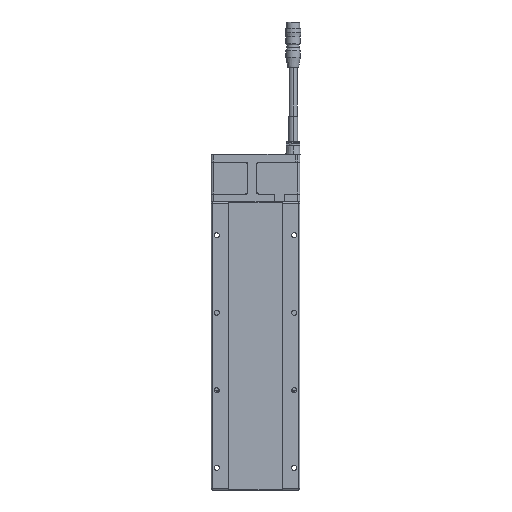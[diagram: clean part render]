
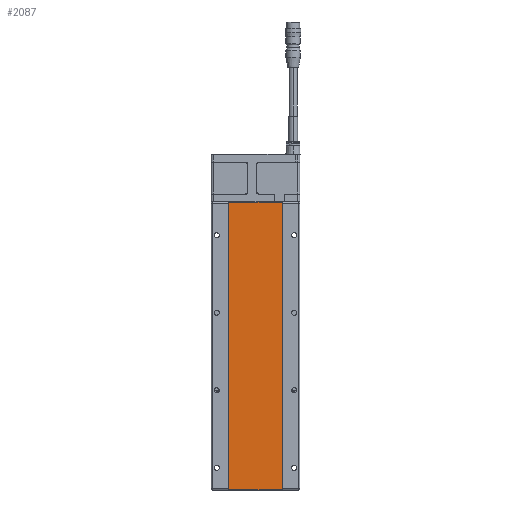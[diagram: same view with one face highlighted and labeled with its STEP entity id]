
A CAD part, front view. The second image highlights one B-rep face of the part: STEP entity #2087.
In plain terms, the highlighted planar face has unit normal (0, -1, 0).
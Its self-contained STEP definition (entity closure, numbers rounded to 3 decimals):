
#2087 = ADVANCED_FACE ( 'NONE', ( #29432 ), #35869, .F. ) ;
#3014 = DIRECTION ( 'NONE',  ( 0., 0., 1. ) ) ;
#7202 = CARTESIAN_POINT ( 'NONE',  ( -24.3, 0.5, 0.3 ) ) ;
#7533 = CARTESIAN_POINT ( 'NONE',  ( -24.3, 0.5, 0.3 ) ) ;
#10597 = VECTOR ( 'NONE', #3014, 1000. ) ;
#12543 = AXIS2_PLACEMENT_3D ( 'NONE', #95972, #21988, #58241 ) ;
#13675 = VERTEX_POINT ( 'NONE', #65684 ) ;
#14198 = EDGE_CURVE ( 'NONE', #17516, #77043, #27824, .T. ) ;
#14259 = DIRECTION ( 'NONE',  ( -1., 0., 0. ) ) ;
#17516 = VERTEX_POINT ( 'NONE', #50593 ) ;
#21058 = ORIENTED_EDGE ( 'NONE', *, *, #63580, .T. ) ;
#21988 = DIRECTION ( 'NONE',  ( 0., 1., 0. ) ) ;
#27824 = LINE ( 'NONE', #58095, #10597 ) ;
#29432 = FACE_OUTER_BOUND ( 'NONE', #59698, .T. ) ;
#35869 = PLANE ( 'NONE',  #12543 ) ;
#36396 = LINE ( 'NONE', #59272, #57757 ) ;
#37451 = VECTOR ( 'NONE', #74257, 1000. ) ;
#37521 = ORIENTED_EDGE ( 'NONE', *, *, #14198, .T. ) ;
#50593 = CARTESIAN_POINT ( 'NONE',  ( 24.3, 0.5, 0.3 ) ) ;
#50704 = CARTESIAN_POINT ( 'NONE',  ( 24.3, 0.5, 259.9 ) ) ;
#57757 = VECTOR ( 'NONE', #89509, 1000. ) ;
#58095 = CARTESIAN_POINT ( 'NONE',  ( 24.3, 0.5, 0.3 ) ) ;
#58241 = DIRECTION ( 'NONE',  ( -1., 0., 0. ) ) ;
#59272 = CARTESIAN_POINT ( 'NONE',  ( -24.3, 0.5, 0.3 ) ) ;
#59698 = EDGE_LOOP ( 'NONE', ( #80507, #21058, #37521, #85141 ) ) ;
#63580 = EDGE_CURVE ( 'NONE', #73865, #17516, #36396, .T. ) ;
#65684 = CARTESIAN_POINT ( 'NONE',  ( -24.3, 0.5, 259.9 ) ) ;
#73865 = VERTEX_POINT ( 'NONE', #7533 ) ;
#74257 = DIRECTION ( 'NONE',  ( 0., 0., -1. ) ) ;
#77043 = VERTEX_POINT ( 'NONE', #50704 ) ;
#80507 = ORIENTED_EDGE ( 'NONE', *, *, #96875, .T. ) ;
#82269 = LINE ( 'NONE', #97647, #88293 ) ;
#85141 = ORIENTED_EDGE ( 'NONE', *, *, #87699, .T. ) ;
#87699 = EDGE_CURVE ( 'NONE', #77043, #13675, #82269, .T. ) ;
#88293 = VECTOR ( 'NONE', #14259, 1000. ) ;
#89509 = DIRECTION ( 'NONE',  ( 1., 0., 0. ) ) ;
#95972 = CARTESIAN_POINT ( 'NONE',  ( -24.3, 0.5, 259.9 ) ) ;
#96875 = EDGE_CURVE ( 'NONE', #13675, #73865, #97568, .T. ) ;
#97568 = LINE ( 'NONE', #7202, #37451 ) ;
#97647 = CARTESIAN_POINT ( 'NONE',  ( -24.3, 0.5, 259.9 ) ) ;
